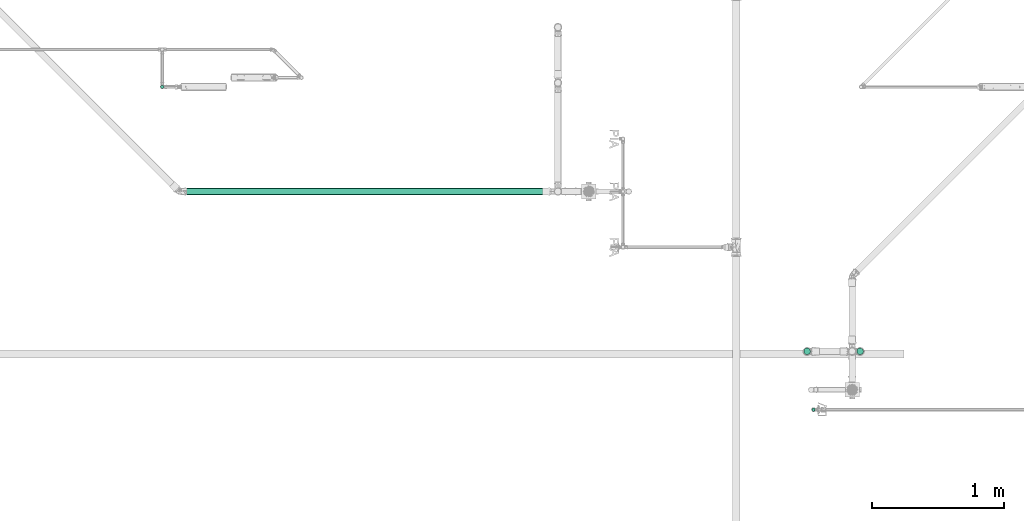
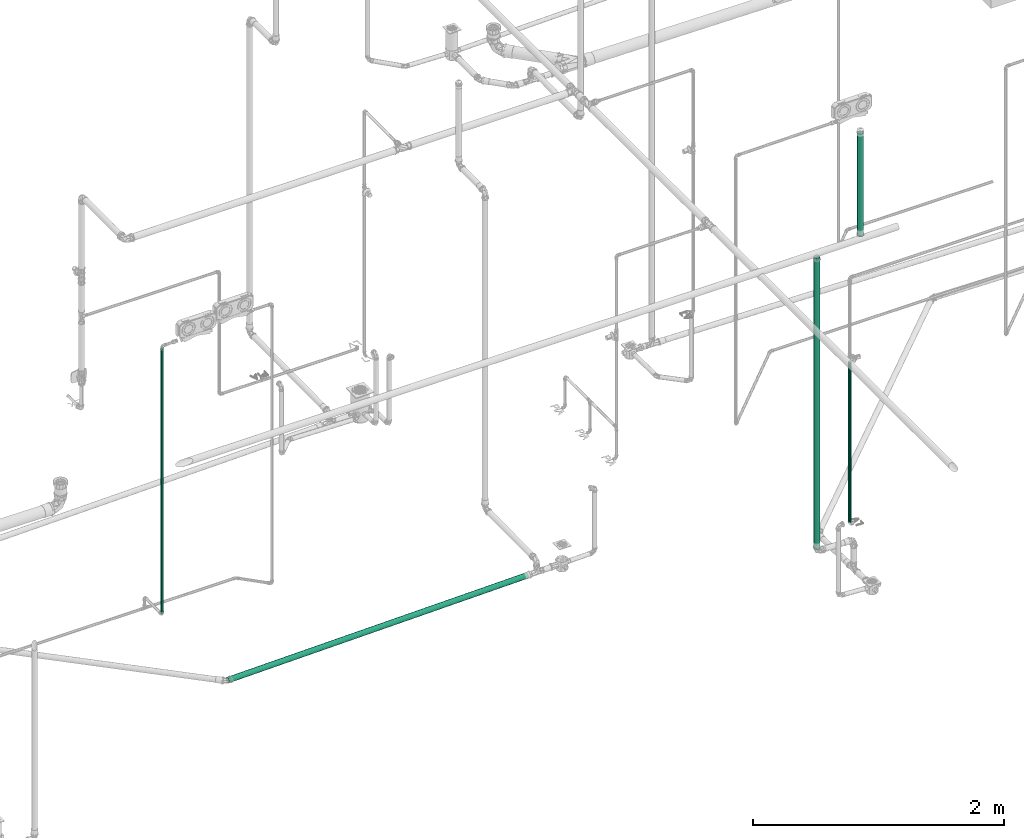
# One storey, part 11 of 589: 5 flow segments.
"""IFC2X3 building model written with IfcOpenShell, lengths in millimetres."""

from ifc_helpers import new_model, entity, si_unit, converted_unit, derived_unit, direction, frame, frame_2d, origin, origin_2d_with_axis, place, context, subcontext, project, spatial, circle, extrude, type_object, element, save


model = new_model("IFC2X3")

# Units and contexts
model_context = context("Model", 3, precision=0.01, world=origin(), true_north=direction((6.123031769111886e-17, 1.0)))
body_context = subcontext(model_context, "Body", "Model", "MODEL_VIEW")
ifc_project = project(units=[si_unit("LENGTHUNIT", "METRE", prefix="MILLI"), si_unit("AREAUNIT", "SQUARE_METRE"), si_unit("VOLUMEUNIT", "CUBIC_METRE"), converted_unit("PLANEANGLEUNIT", "DEGREE", entity("IfcRatioMeasure", 0.017453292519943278), si_unit("PLANEANGLEUNIT", "RADIAN"), dimensions=[0, 0, 0, 0, 0, 0, 0]), si_unit("MASSUNIT", "GRAM", prefix="KILO"), derived_unit("MASSDENSITYUNIT", [(si_unit("MASSUNIT", "GRAM", prefix="KILO"), 1), (si_unit("LENGTHUNIT", "METRE"), -3)]), derived_unit("IONCONCENTRATIONUNIT", [(si_unit("MASSUNIT", "GRAM", prefix="KILO"), 1), (si_unit("LENGTHUNIT", "METRE"), -3)]), derived_unit("MOMENTOFINERTIAUNIT", [(si_unit("LENGTHUNIT", "METRE"), 4)]), si_unit("TIMEUNIT", "SECOND"), si_unit("FREQUENCYUNIT", "HERTZ"), si_unit("THERMODYNAMICTEMPERATUREUNIT", "DEGREE_CELSIUS"), derived_unit("THERMALTRANSMITTANCEUNIT", [(si_unit("MASSUNIT", "GRAM", prefix="KILO"), 1), (si_unit("THERMODYNAMICTEMPERATUREUNIT", "KELVIN"), -1), (si_unit("TIMEUNIT", "SECOND"), -3)]), derived_unit("THERMALCONDUCTANCEUNIT", [(si_unit("MASSUNIT", "GRAM", prefix="KILO"), 1), (si_unit("THERMODYNAMICTEMPERATUREUNIT", "KELVIN"), -1), (si_unit("TIMEUNIT", "SECOND"), -3), (si_unit("LENGTHUNIT", "METRE"), 1)]), derived_unit("VOLUMETRICFLOWRATEUNIT", [(si_unit("LENGTHUNIT", "METRE"), 3), (si_unit("TIMEUNIT", "SECOND"), -1)]), derived_unit("MASSFLOWRATEUNIT", [(si_unit("MASSUNIT", "GRAM", prefix="KILO"), 1), (si_unit("TIMEUNIT", "SECOND"), -1)]), derived_unit("ROTATIONALFREQUENCYUNIT", [(si_unit("TIMEUNIT", "SECOND"), -1)]), si_unit("ELECTRICCURRENTUNIT", "AMPERE"), si_unit("ELECTRICVOLTAGEUNIT", "VOLT"), si_unit("POWERUNIT", "WATT"), si_unit("FORCEUNIT", "NEWTON", prefix="KILO"), si_unit("ILLUMINANCEUNIT", "LUX"), si_unit("LUMINOUSFLUXUNIT", "LUMEN"), si_unit("LUMINOUSINTENSITYUNIT", "CANDELA"), derived_unit("USERDEFINED", [(si_unit("MASSUNIT", "GRAM", prefix="KILO"), -1), (si_unit("LENGTHUNIT", "METRE"), -2), (si_unit("TIMEUNIT", "SECOND"), 3), (si_unit("LUMINOUSFLUXUNIT", "LUMEN"), 1)]), derived_unit("USERDEFINED", [(si_unit("MASSUNIT", "GRAM", prefix="KILO"), 1), (si_unit("TIMEUNIT", "SECOND"), -3), (si_unit("LENGTHUNIT", "METRE"), 3), (si_unit("ELECTRICCURRENTUNIT", "AMPERE"), -2)]), derived_unit("SOUNDPOWERUNIT", [(si_unit("MASSUNIT", "GRAM", prefix="KILO"), 1), (si_unit("TIMEUNIT", "SECOND"), -3), (si_unit("LENGTHUNIT", "METRE"), 2)]), derived_unit("SOUNDPRESSUREUNIT", [(si_unit("MASSUNIT", "GRAM", prefix="KILO"), 1), (si_unit("LENGTHUNIT", "METRE"), -1), (si_unit("TIMEUNIT", "SECOND"), -2)]), derived_unit("LINEARVELOCITYUNIT", [(si_unit("LENGTHUNIT", "METRE"), 1), (si_unit("TIMEUNIT", "SECOND"), -1)]), si_unit("PRESSUREUNIT", "PASCAL"), derived_unit("USERDEFINED", [(si_unit("MASSUNIT", "GRAM", prefix="KILO"), 1), (si_unit("LENGTHUNIT", "METRE"), -2), (si_unit("TIMEUNIT", "SECOND"), -2)]), derived_unit("LINEARFORCEUNIT", [(si_unit("MASSUNIT", "GRAM", prefix="KILO"), 1), (si_unit("TIMEUNIT", "SECOND"), -2)]), derived_unit("PLANARFORCEUNIT", [(si_unit("MASSUNIT", "GRAM", prefix="KILO"), 1), (si_unit("LENGTHUNIT", "METRE"), -1), (si_unit("TIMEUNIT", "SECOND"), -2)]), derived_unit("SPECIFICHEATCAPACITYUNIT", [(si_unit("THERMODYNAMICTEMPERATUREUNIT", "KELVIN"), -1), (si_unit("LENGTHUNIT", "METRE"), 2), (si_unit("TIMEUNIT", "SECOND"), -2)]), derived_unit("HEATINGVALUEUNIT", [(si_unit("LENGTHUNIT", "METRE"), 2), (si_unit("TIMEUNIT", "SECOND"), -2)]), derived_unit("VAPORPERMEABILITYUNIT", [(si_unit("LENGTHUNIT", "METRE"), -1), (si_unit("TIMEUNIT", "SECOND"), 1)]), derived_unit("DYNAMICVISCOSITYUNIT", [(si_unit("MASSUNIT", "GRAM", prefix="KILO"), 1), (si_unit("TIMEUNIT", "SECOND"), -1), (si_unit("LENGTHUNIT", "METRE"), -1)]), derived_unit("THERMALEXPANSIONCOEFFICIENTUNIT", [(si_unit("THERMODYNAMICTEMPERATUREUNIT", "KELVIN"), -1)]), derived_unit("MODULUSOFELASTICITYUNIT", [(si_unit("MASSUNIT", "GRAM", prefix="KILO"), 1), (si_unit("LENGTHUNIT", "METRE"), -1), (si_unit("TIMEUNIT", "SECOND"), -2)]), derived_unit("ISOTHERMALMOISTURECAPACITYUNIT", [(si_unit("LENGTHUNIT", "METRE"), 3), (si_unit("MASSUNIT", "GRAM", prefix="KILO"), -1)]), derived_unit("MOISTUREDIFFUSIVITYUNIT", [(si_unit("TIMEUNIT", "SECOND"), -1), (si_unit("LENGTHUNIT", "METRE"), 2)])], contexts=[model_context])

# Site, building, storey
site_placement = place(None, origin())
site = spatial("IfcSite", under=ifc_project, at=site_placement, Name="Default", CompositionType="ELEMENT")
building_placement = place(site_placement, origin())
building = spatial("IfcBuilding", under=site, at=building_placement, CompositionType="ELEMENT")
storey_placement = place(building_placement, frame((0.0, 0.0, 100.0)))
storey = spatial("IfcBuildingStorey", under=building, at=storey_placement, Name="TÉRREO", CompositionType="ELEMENT", Elevation=100.0)

# Flow segments
pipe_segment_type_1 = type_object("IfcPipeSegmentType", Name="Tipos de tubos:PVC Esgoto Série Normal", PredefinedType="NOTDEFINED")
flow_segment_1_placement = place(storey_placement, origin())
element("IfcFlowSegment", 1, at=flow_segment_1_placement, inside=storey, type_object=pipe_segment_type_1, Name="Tipos de tubos:PVC Esgoto Série Normal", ObjectType="Tipos de tubos:PVC Esgoto Série Normal", context=body_context, shape_type="SweptSolid", body=[
    extrude(circle(Radius=25.0, at=origin_2d_with_axis()), frame((4580.9347788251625, -509.16823324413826, 114.34129996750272), z_axis=(0.0, 0.0, 1.0), x_axis=(-1.0, 0.0, 0.0)), (0.0, 0.0, 1.0), 2838.117400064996),
])
flow_segment_2_placement = place(storey_placement, origin())
element("IfcFlowSegment", 2, at=flow_segment_2_placement, inside=storey, type_object=pipe_segment_type_1, Name="Tipos de tubos:PVC Esgoto Série Normal", ObjectType="Tipos de tubos:PVC Esgoto Série Normal", context=body_context, shape_type="SweptSolid", body=[
    extrude(circle(Radius=25.0, at=origin_2d_with_axis()), frame((4980.934778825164, -509.1682332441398, 3018.3412999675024), z_axis=(0.0, 0.0, 1.0), x_axis=(-1.0, 0.0, 0.0)), (0.0, 0.0, 1.0), 1000.558700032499),
])
flow_segment_3_placement = place(storey_placement, origin())
element("IfcFlowSegment", 3, at=flow_segment_3_placement, inside=storey, type_object=pipe_segment_type_1, Name="Tipos de tubos:PVC Esgoto Série Normal", ObjectType="Tipos de tubos:PVC Esgoto Série Normal", context=body_context, shape_type="SweptSolid", body=[
    extrude(circle(Radius=25.0, at=frame_2d((0.0, -5.4132531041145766e-15), x_axis=(1.0, 0.0))), frame((-142.57985778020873, 697.7290075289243, -247.74400421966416), z_axis=(0.999800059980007, 0.0, 0.019996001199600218), x_axis=(0.0, 1.0, 0.0)), (0.0, 0.0, 1.0), 2756.732711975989),
])
pipe_segment_type_2 = type_object("IfcPipeSegmentType", Name="Tipos de tubos:PVC Marrom Soldável", PredefinedType="NOTDEFINED")
flow_segment_4_placement = place(storey_placement, origin())
element("IfcFlowSegment", 4, at=flow_segment_4_placement, inside=storey, type_object=pipe_segment_type_2, Name="Tipos de tubos:PVC Marrom Soldável", ObjectType="Tipos de tubos:PVC Marrom Soldável", context=body_context, shape_type="SweptSolid", body=[
    extrude(circle(Radius=12.5, at=origin_2d_with_axis()), frame((4629.553225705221, -949.8765311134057, 616.3000000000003), z_axis=(0.0, 0.0, 1.0), x_axis=(-1.0, 0.0, 0.0)), (0.0, 0.0, 1.0), 1563.6999999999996),
])
flow_segment_5_placement = place(storey_placement, origin())
element("IfcFlowSegment", 5, at=flow_segment_5_placement, inside=storey, type_object=pipe_segment_type_2, Name="Tipos de tubos:PVC Marrom Soldável", ObjectType="Tipos de tubos:PVC Marrom Soldável", context=body_context, shape_type="SweptSolid", body=[
    extrude(circle(Radius=12.5, at=frame_2d((1.310237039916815e-18, 0.0), x_axis=(1.0, 0.0))), frame((-288.3478471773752, 1487.6480909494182, -21.959807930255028)), (0.0, 0.0, 1.0), 2581.789551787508),
])

save(model, "model.ifc")
